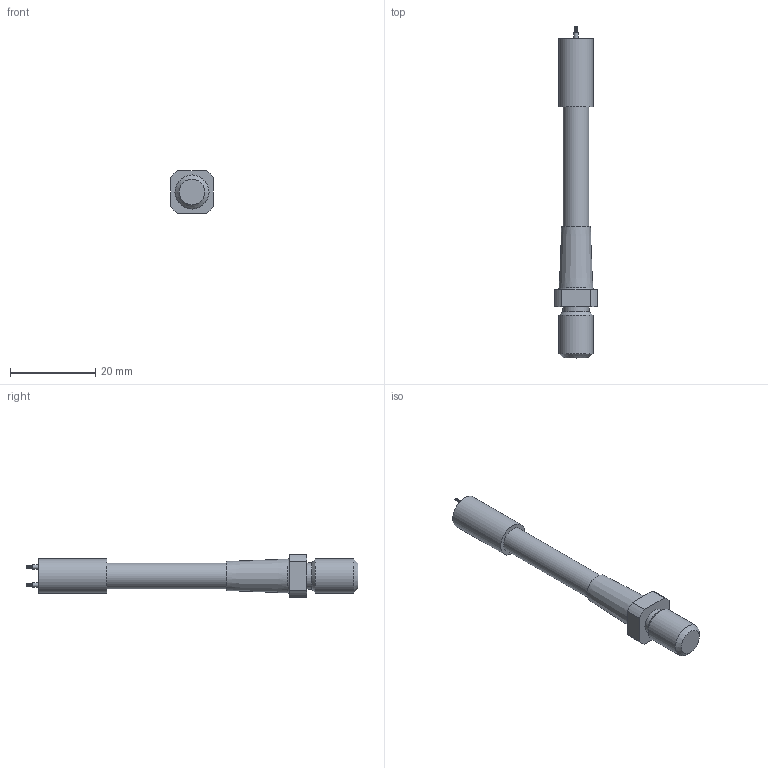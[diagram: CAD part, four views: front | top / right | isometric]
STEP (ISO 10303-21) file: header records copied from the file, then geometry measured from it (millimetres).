
FILE_DESCRIPTION(('STEP AP203'), '1');
FILE_NAME('ﾊﾌﾍﾒ.794191.003 ﾐﾐﾝﾑ-80-ﾐ6', '', ('UNSPECIFIED'), ('UNSPECIFIED'), 'C3D Converter', 'C3D Toolkit', '');
FILE_SCHEMA(('CONFIG_CONTROL_DESIGN'));
Length unit declared in the file: millimetre
Products named in the file (1): КМНТ.794191.003
Bounding box: 10 x 78 x 10 mm (x, y, z)
Volume: 3071.6 mm3; surface area: 2530.5 mm2
Topology: 447 solids, 447 shells, 3264 faces, 5287 edges, 2927 vertices
Faces by surface type: cylinder 1417, plane 947, torus 895, cone 5
Full cylindrical faces by diameter (mm): 0.02 x1335, 0.78 x3, 1 x3, 2 x1, 3 x1, 6 x2, 6.2 x1, 8 x2
Entity records: 91246 total; most frequent: DIRECTION 12408, CARTESIAN_POINT 9263, AXIS2_PLACEMENT_3D 6108, ORIENTED_EDGE 6078, EDGE_LOOP 5524, FACE_OUTER_BOUND 4491, COLOUR_RGB 3711, FILL_AREA_STYLE_COLOUR 3711
